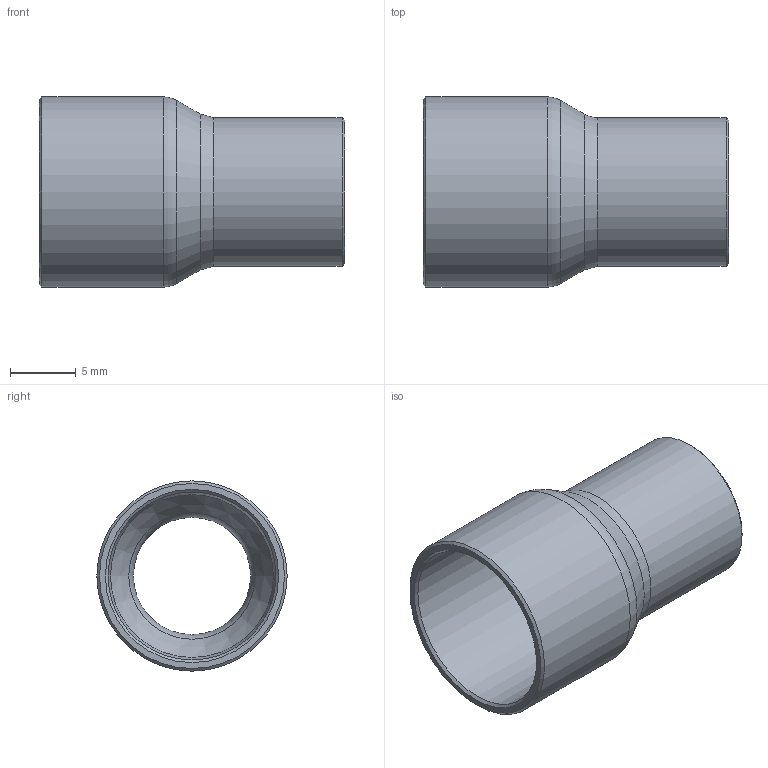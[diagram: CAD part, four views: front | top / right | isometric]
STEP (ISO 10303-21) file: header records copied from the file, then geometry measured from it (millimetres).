
FILE_DESCRIPTION((''),'2;1');
FILE_NAME('G:\SANHA-Ternat\Technik\Management\Bouwmaten + markeringen\z-maattekeningen 3D\29000s\292401238_3d.stp','2017-08-04T09:53:45',('vdvijverd'),(''),'Autodesk Inventor 2009','Autodesk Inventor 2009','');
FILE_SCHEMA(('AUTOMOTIVE_DESIGN { 1 0 10303 214 1 1 1 1 }'));
Length unit declared in the file: millimetre
Products named in the file (1): 292401238_3d
Bounding box: 23.3 x 14.52 x 14.52 mm (x, y, z)
Volume: 783 mm3; surface area: 1837.2 mm2
Topology: 1 solids, 1 shells, 17 faces, 32 edges, 17 vertices
Faces by surface type: cone 6, cylinder 4, bspline 3, plane 2, torus 2
Full cylindrical faces by diameter (mm): 9.645 x1, 11.345 x1, 12.82 x1, 14.52 x1
Entity records: 494 total; most frequent: CARTESIAN_POINT 184, DIRECTION 64, ORIENTED_EDGE 34, EDGE_LOOP 34, AXIS2_PLACEMENT_3D 32, VERTEX_POINT 17, CIRCLE 17, EDGE_CURVE 17
